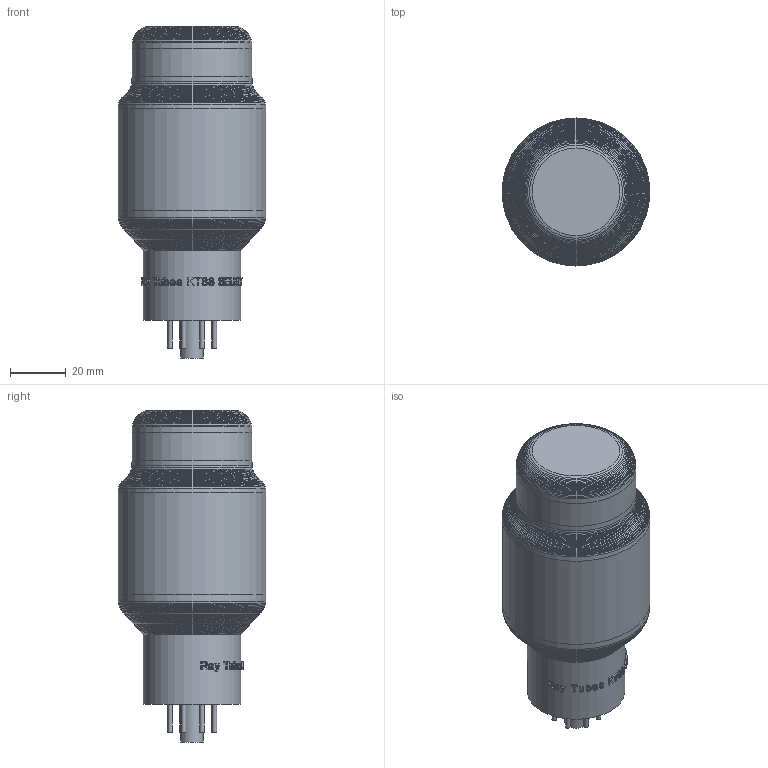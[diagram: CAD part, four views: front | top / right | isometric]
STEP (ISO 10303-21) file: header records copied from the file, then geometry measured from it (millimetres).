
FILE_DESCRIPTION(('Open CASCADE Model'),'2;1');
FILE_NAME('Open CASCADE Shape Model','2026-06-14T10:10:02',('Author'),( 'Open CASCADE'),'Open CASCADE STEP processor 7.8','Open CASCADE 7.8' ,'Unknown');
FILE_SCHEMA(('AUTOMOTIVE_DESIGN { 1 0 10303 214 1 1 1 1 }'));
Length unit declared in the file: millimetre
Products named in the file (6): Ray_Tubes_KT88_SELECT_from_DXF_mm; Socket_layer; Socket_key_layer; Glas_layer; Pin_layer; Model_label_layer
Assembly tree (5 placements, depth 2):
  Ray_Tubes_KT88_SELECT_from_DXF_mm
    Socket_layer
    Socket_key_layer
    Glas_layer
    Pin_layer
    Model_label_layer
Bounding box: 53 x 53 x 119 mm (x, y, z)
Volume: 175837.6 mm3; surface area: 20805.3 mm2
Topology: 29 solids, 29 shells, 519 faces, 1297 edges, 836 vertices
Faces by surface type: extrusion 254, plane 168, cone 85, cylinder 12
Full cylindrical faces by diameter (mm): 1.6 x8, 8 x1, 35 x1, 43 x1, 53 x1
Entity records: 15929 total; most frequent: CARTESIAN_POINT 4182, ORIENTED_EDGE 2594, DIRECTION 1693, EDGE_CURVE 1297, VECTOR 935, VERTEX_POINT 836, B_SPLINE_CURVE_WITH_KNOTS 762, LINE 681
